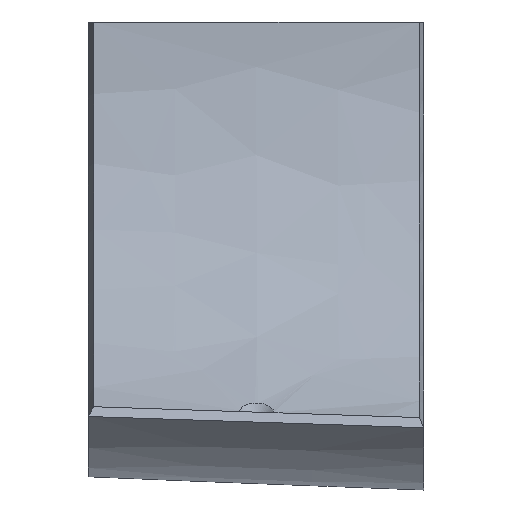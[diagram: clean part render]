
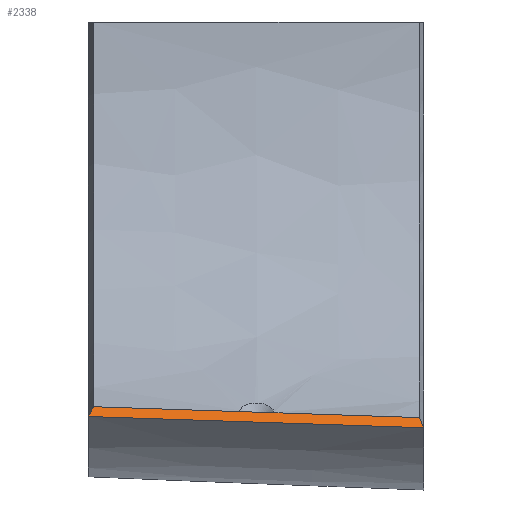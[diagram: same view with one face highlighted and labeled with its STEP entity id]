
A CAD part, left-side view. The second image highlights one B-rep face of the part: STEP entity #2338.
In plain terms, the highlighted free-form (B-spline) face has degree [1, 3] with [2, 4] control points.
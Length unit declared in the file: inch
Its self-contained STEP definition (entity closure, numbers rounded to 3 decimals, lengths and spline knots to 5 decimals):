
#73 = CARTESIAN_POINT ( 'NONE',  ( 105.42573, 43.74018, -25.36946 ) ) ;
#126 = VERTEX_POINT ( 'NONE', #2210 ) ;
#160 = CARTESIAN_POINT ( 'NONE',  ( 105.54817, 43.62707, -25.1563 ) ) ;
#226 = CARTESIAN_POINT ( 'NONE',  ( 105.13228, 22.0625, -25.87664 ) ) ;
#280 = ORIENTED_EDGE ( 'NONE', *, *, #1277, .T. ) ;
#439 = CARTESIAN_POINT ( 'NONE',  ( 105.0402, 36.67474, -26.03933 ) ) ;
#485 = CARTESIAN_POINT ( 'NONE',  ( 105.18084, 43.96641, -25.79577 ) ) ;
#706 = EDGE_LOOP ( 'NONE', ( #1006, #1455, #2184, #280 ) ) ;
#779 = CARTESIAN_POINT ( 'NONE',  ( 105.13827, 22.37293, -25.86627 ) ) ;
#943 = CARTESIAN_POINT ( 'NONE',  ( 105.41353, 36.64583, -25.3895 ) ) ;
#981 = CARTESIAN_POINT ( 'NONE',  ( 105.54817, 43.62707, -25.1563 ) ) ;
#1006 = ORIENTED_EDGE ( 'NONE', *, *, #1552, .T. ) ;
#1008 = EDGE_CURVE ( 'NONE', #1108, #2046, #1659, .T. ) ;
#1019 = EDGE_CURVE ( 'NONE', #2199, #2046, #1309, .T. ) ;
#1108 = VERTEX_POINT ( 'NONE', #1601 ) ;
#1118 = CARTESIAN_POINT ( 'NONE',  ( 105.55416, 43.9375, -25.14593 ) ) ;
#1164 = CARTESIAN_POINT ( 'NONE',  ( 105.0402, 36.67474, -26.03933 ) ) ;
#1167 = CARTESIAN_POINT ( 'NONE',  ( 105.41154, 36.54236, -25.39296 ) ) ;
#1261 = CARTESIAN_POINT ( 'NONE',  ( 105.30328, 43.85329, -25.58261 ) ) ;
#1277 = EDGE_CURVE ( 'NONE', #1108, #126, #1799, .T. ) ;
#1309 = B_SPLINE_CURVE_WITH_KNOTS ( 'NONE', 3,
 ( #1388, #73, #1261, #485 ),
 .UNSPECIFIED., .F., .F.,
 ( 4, 4 ),
 ( 0., 1. ),
 .UNSPECIFIED. ) ;
#1316 = CARTESIAN_POINT ( 'NONE',  ( 104.75892, 22.09141, -26.52646 ) ) ;
#1318 = CARTESIAN_POINT ( 'NONE',  ( 105.27491, 29.45764, -25.62961 ) ) ;
#1349 = B_SPLINE_SURFACE_WITH_KNOTS ( 'NONE', 1, 3, ( 
 ( #1316, #2282, #1164, #2439 ),
 ( #226, #1915, #943, #1118 ) ),
 .UNSPECIFIED., .F., .F., .F.,
 ( 2, 2 ),
 ( 4, 4 ),
 ( 0., 1. ),
 ( -0.27802, 0.27802 ),
 .UNSPECIFIED. ) ;
#1377 = CARTESIAN_POINT ( 'NONE',  ( 104.75892, 22.09141, -26.52646 ) ) ;
#1388 = CARTESIAN_POINT ( 'NONE',  ( 105.54817, 43.62707, -25.1563 ) ) ;
#1455 = ORIENTED_EDGE ( 'NONE', *, *, #1019, .T. ) ;
#1482 = FACE_OUTER_BOUND ( 'NONE', #706, .T. ) ;
#1515 = CARTESIAN_POINT ( 'NONE',  ( 105.13827, 22.37293, -25.86627 ) ) ;
#1552 = EDGE_CURVE ( 'NONE', #126, #2199, #2107, .T. ) ;
#1569 = CARTESIAN_POINT ( 'NONE',  ( 105.18084, 43.96641, -25.79577 ) ) ;
#1601 = CARTESIAN_POINT ( 'NONE',  ( 104.75892, 22.09141, -26.52646 ) ) ;
#1612 = CARTESIAN_POINT ( 'NONE',  ( 105.18084, 43.96641, -25.79577 ) ) ;
#1659 = B_SPLINE_CURVE_WITH_KNOTS ( 'NONE', 3,
 ( #1377, #2130, #439, #1569 ),
 .UNSPECIFIED., .F., .F.,
 ( 4, 4 ),
 ( 0., 1. ),
 .UNSPECIFIED. ) ;
#1718 = CARTESIAN_POINT ( 'NONE',  ( 104.88537, 22.18525, -26.3064 ) ) ;
#1799 = B_SPLINE_CURVE_WITH_KNOTS ( 'NONE', 3,
 ( #2096, #1718, #2297, #1515 ),
 .UNSPECIFIED., .F., .F.,
 ( 4, 4 ),
 ( 0., 1. ),
 .UNSPECIFIED. ) ;
#1915 = CARTESIAN_POINT ( 'NONE',  ( 105.27291, 29.35417, -25.63307 ) ) ;
#2046 = VERTEX_POINT ( 'NONE', #1612 ) ;
#2096 = CARTESIAN_POINT ( 'NONE',  ( 104.75892, 22.09141, -26.52646 ) ) ;
#2107 = B_SPLINE_CURVE_WITH_KNOTS ( 'NONE', 3,
 ( #779, #1318, #1167, #981 ),
 .UNSPECIFIED., .F., .F.,
 ( 4, 4 ),
 ( 0.01419, 0.98581 ),
 .UNSPECIFIED. ) ;
#2130 = CARTESIAN_POINT ( 'NONE',  ( 104.89956, 29.38307, -26.2829 ) ) ;
#2184 = ORIENTED_EDGE ( 'NONE', *, *, #1008, .F. ) ;
#2199 = VERTEX_POINT ( 'NONE', #160 ) ;
#2210 = CARTESIAN_POINT ( 'NONE',  ( 105.13827, 22.37293, -25.86627 ) ) ;
#2282 = CARTESIAN_POINT ( 'NONE',  ( 104.89956, 29.38307, -26.2829 ) ) ;
#2297 = CARTESIAN_POINT ( 'NONE',  ( 105.01182, 22.27909, -26.08633 ) ) ;
#2338 = ADVANCED_FACE ( 'NONE', ( #1482 ), #1349, .T. ) ;
#2439 = CARTESIAN_POINT ( 'NONE',  ( 105.18084, 43.96641, -25.79577 ) ) ;
